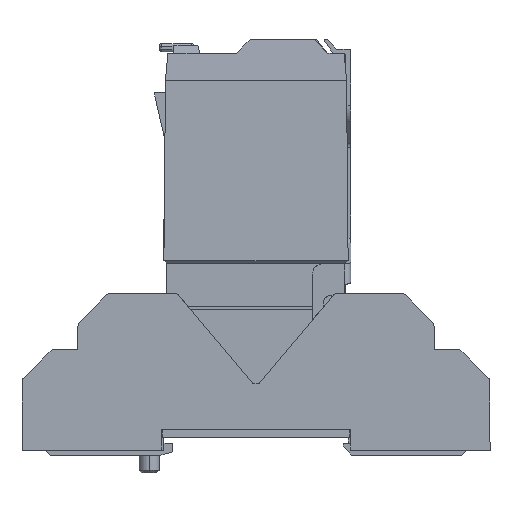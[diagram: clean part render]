
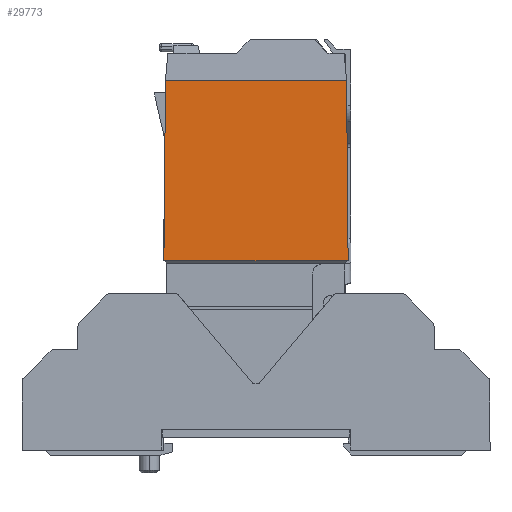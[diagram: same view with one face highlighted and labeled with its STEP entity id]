
A CAD part, left-side view. The second image highlights one B-rep face of the part: STEP entity #29773.
In plain terms, the highlighted planar face has unit normal (-1, 0, 0.009).
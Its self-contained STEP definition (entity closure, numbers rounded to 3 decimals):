
#826 = ORIENTED_EDGE ( 'NONE', *, *, #13024, .T. ) ;
#1512 = DIRECTION ( 'NONE',  ( 0.009, 0., 1. ) ) ;
#4189 = VERTEX_POINT ( 'NONE', #39370 ) ;
#7568 = EDGE_CURVE ( 'NONE', #8610, #4189, #30216, .T. ) ;
#8352 = CARTESIAN_POINT ( 'NONE',  ( 1.302, 64.16, 77.148 ) ) ;
#8610 = VERTEX_POINT ( 'NONE', #19396 ) ;
#11349 = FACE_OUTER_BOUND ( 'NONE', #31896, .T. ) ;
#11465 = LINE ( 'NONE', #17562, #34943 ) ;
#13024 = EDGE_CURVE ( 'NONE', #4189, #37169, #11465, .T. ) ;
#14021 = PLANE ( 'NONE',  #17510 ) ;
#14417 = DIRECTION ( 'NONE',  ( -1., 0., 0.009 ) ) ;
#15473 = VERTEX_POINT ( 'NONE', #35802 ) ;
#16823 = VECTOR ( 'NONE', #32988, 1000. ) ;
#17008 = DIRECTION ( 'NONE',  ( -0.009, 0.009, -1. ) ) ;
#17510 = AXIS2_PLACEMENT_3D ( 'NONE', #29420, #14417, #1512 ) ;
#17562 = CARTESIAN_POINT ( 'NONE',  ( 0.993, 27.888, 41.76 ) ) ;
#18266 = CARTESIAN_POINT ( 'NONE',  ( 0.94, 27.84, 35.7 ) ) ;
#19396 = CARTESIAN_POINT ( 'NONE',  ( 1.302, 63.798, 77.148 ) ) ;
#19802 = EDGE_CURVE ( 'NONE', #15473, #8610, #35833, .T. ) ;
#19803 = DIRECTION ( 'NONE',  ( 0., -1., 0. ) ) ;
#20804 = EDGE_CURVE ( 'NONE', #15473, #37169, #24006, .T. ) ;
#24006 = LINE ( 'NONE', #18266, #34288 ) ;
#25378 = CARTESIAN_POINT ( 'NONE',  ( 0.993, 27.893, 41.76 ) ) ;
#29420 = CARTESIAN_POINT ( 'NONE',  ( 0.94, 64.16, 35.7 ) ) ;
#29773 = ADVANCED_FACE ( 'NONE', ( #11349 ), #14021, .T. ) ;
#30216 = LINE ( 'NONE', #38987, #37025 ) ;
#31896 = EDGE_LOOP ( 'NONE', ( #31989, #39052, #38116, #826 ) ) ;
#31989 = ORIENTED_EDGE ( 'NONE', *, *, #20804, .F. ) ;
#32988 = DIRECTION ( 'NONE',  ( 0., 1., 0. ) ) ;
#33728 = DIRECTION ( 'NONE',  ( -0.009, -0.009, -1. ) ) ;
#34288 = VECTOR ( 'NONE', #33728, 1000. ) ;
#34943 = VECTOR ( 'NONE', #19803, 1000. ) ;
#35802 = CARTESIAN_POINT ( 'NONE',  ( 1.302, 28.202, 77.148 ) ) ;
#35833 = LINE ( 'NONE', #8352, #16823 ) ;
#37025 = VECTOR ( 'NONE', #17008, 1000. ) ;
#37169 = VERTEX_POINT ( 'NONE', #25378 ) ;
#38116 = ORIENTED_EDGE ( 'NONE', *, *, #7568, .T. ) ;
#38987 = CARTESIAN_POINT ( 'NONE',  ( 0.94, 64.16, 35.7 ) ) ;
#39052 = ORIENTED_EDGE ( 'NONE', *, *, #19802, .T. ) ;
#39370 = CARTESIAN_POINT ( 'NONE',  ( 0.993, 64.107, 41.76 ) ) ;
